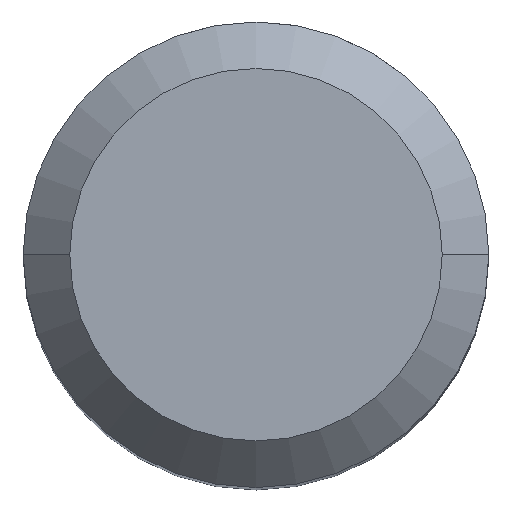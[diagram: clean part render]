
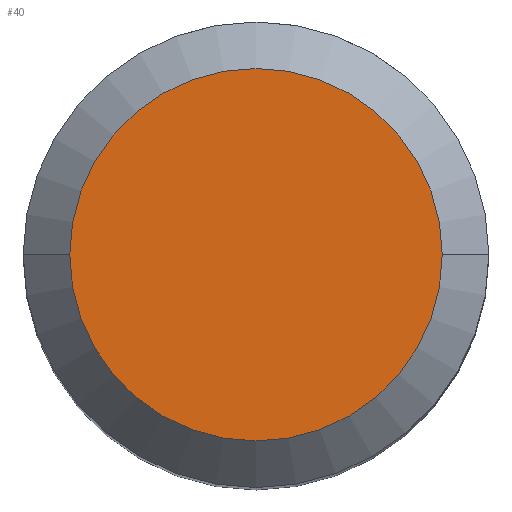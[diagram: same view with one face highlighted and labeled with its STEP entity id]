
A CAD part, top view. The second image highlights one B-rep face of the part: STEP entity #40.
In plain terms, the highlighted planar face has unit normal (0, 0, 1).
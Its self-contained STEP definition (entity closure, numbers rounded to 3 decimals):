
#40 = ADVANCED_FACE ( 'NONE', ( #570 ), #518, .T. ) ;
#111 = AXIS2_PLACEMENT_3D ( 'NONE', #207, #323, #502 ) ;
#144 = EDGE_LOOP ( 'NONE', ( #273, #320 ) ) ;
#192 = VERTEX_POINT ( 'NONE', #485 ) ;
#198 = AXIS2_PLACEMENT_3D ( 'NONE', #396, #522, #482 ) ;
#207 = CARTESIAN_POINT ( 'NONE',  ( 0., 0., 0. ) ) ;
#217 = CARTESIAN_POINT ( 'NONE',  ( 0., 0., 0. ) ) ;
#273 = ORIENTED_EDGE ( 'NONE', *, *, #553, .F. ) ;
#293 = CIRCLE ( 'NONE', #524, 6.4 ) ;
#320 = ORIENTED_EDGE ( 'NONE', *, *, #380, .F. ) ;
#323 = DIRECTION ( 'NONE',  ( 0., 0., -1. ) ) ;
#380 = EDGE_CURVE ( 'NONE', #192, #499, #411, .T. ) ;
#396 = CARTESIAN_POINT ( 'NONE',  ( 0., 6.4, 0. ) ) ;
#411 = CIRCLE ( 'NONE', #111, 6.4 ) ;
#482 = DIRECTION ( 'NONE',  ( 1., 0., 0. ) ) ;
#485 = CARTESIAN_POINT ( 'NONE',  ( 6.4, 0., 0. ) ) ;
#499 = VERTEX_POINT ( 'NONE', #520 ) ;
#502 = DIRECTION ( 'NONE',  ( -1., 0., 0. ) ) ;
#518 = PLANE ( 'NONE',  #198 ) ;
#520 = CARTESIAN_POINT ( 'NONE',  ( -6.4, 0., 0. ) ) ;
#522 = DIRECTION ( 'NONE',  ( 0., 0., 1. ) ) ;
#524 = AXIS2_PLACEMENT_3D ( 'NONE', #217, #568, #561 ) ;
#553 = EDGE_CURVE ( 'NONE', #499, #192, #293, .T. ) ;
#561 = DIRECTION ( 'NONE',  ( -1., 0., 0. ) ) ;
#568 = DIRECTION ( 'NONE',  ( 0., 0., -1. ) ) ;
#570 = FACE_OUTER_BOUND ( 'NONE', #144, .T. ) ;
